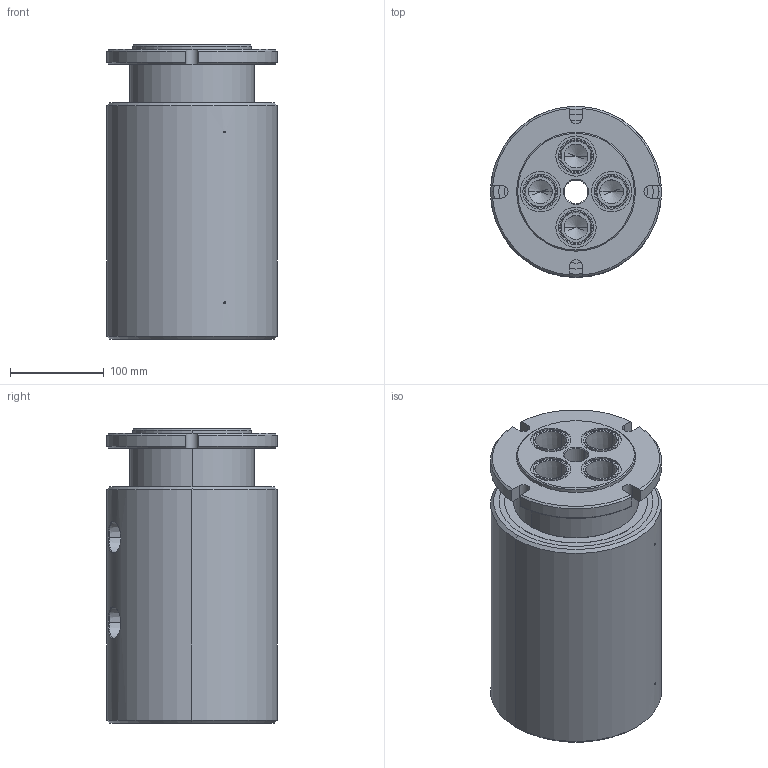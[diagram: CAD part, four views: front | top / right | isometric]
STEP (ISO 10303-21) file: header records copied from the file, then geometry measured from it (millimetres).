
FILE_DESCRIPTION (( 'STEP AP214' ), '1' );
FILE_NAME ('GP(M)-641.STEP', '2013-02-06T13:52:21', ( '' ), ( '' ), 'SwSTEP 2.0', 'SolidWorks 2011', '' );
FILE_SCHEMA (( 'AUTOMOTIVE_DESIGN' ));
Length unit declared in the file: inch
Products named in the file (1): GP(M)-641
Bounding box: 182.55 x 182.55 x 314.27 mm (x, y, z)
Volume: 7126006.3 mm3; surface area: 316757.6 mm2
Topology: 1 solids, 1 shells, 225 faces, 528 edges, 317 vertices
Faces by surface type: cylinder 95, cone 76, plane 44, bspline 8, torus 2
Entity records: 7999 total; most frequent: CARTESIAN_POINT 2535, DIRECTION 1120, ORIENTED_EDGE 988, EDGE_CURVE 494, AXIS2_PLACEMENT_3D 460, VERTEX_POINT 317, EDGE_LOOP 273, CIRCLE 242
